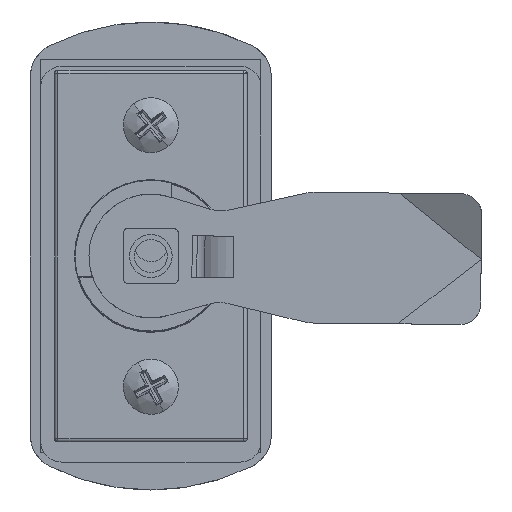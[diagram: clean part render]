
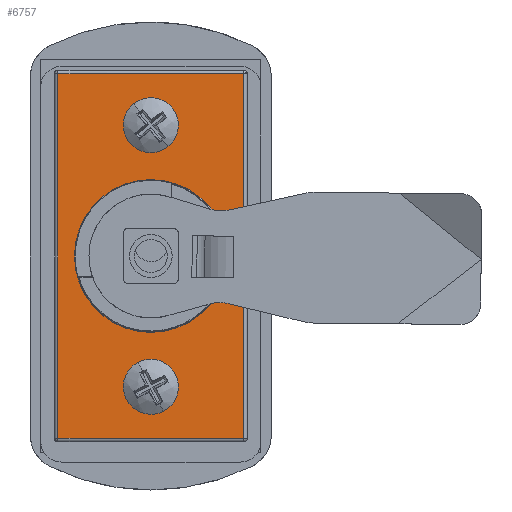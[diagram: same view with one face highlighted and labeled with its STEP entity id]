
A CAD part, front view. The second image highlights one B-rep face of the part: STEP entity #6757.
In plain terms, the highlighted planar face has unit normal (0, -1, 0) as drawn and (1, 0, 0) by its records, which use the part's own axes.
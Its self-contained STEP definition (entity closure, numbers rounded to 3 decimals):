
#6753 = EDGE_CURVE ( 'NONE', #9751, #9755, #15724, .T. ) ;
#6755 = ORIENTED_EDGE ( 'NONE', *, *, #43760, .T. ) ;
#6756 = ORIENTED_EDGE ( 'NONE', *, *, #6753, .T. ) ;
#6757 = ADVANCED_FACE ( 'NONE', ( #15731, #15710, #15732, #15713 ), #15715, .T. ) ;
#6758 = ORIENTED_EDGE ( 'NONE', *, *, #9822, .T. ) ;
#6759 = EDGE_LOOP ( 'NONE', ( #7066, #6756 ) ) ;
#6763 = EDGE_LOOP ( 'NONE', ( #6767, #6766 ) ) ;
#6764 = ORIENTED_EDGE ( 'NONE', *, *, #43747, .T. ) ;
#6765 = ORIENTED_EDGE ( 'NONE', *, *, #7074, .T. ) ;
#6766 = ORIENTED_EDGE ( 'NONE', *, *, #43740, .T. ) ;
#6767 = ORIENTED_EDGE ( 'NONE', *, *, #9798, .T. ) ;
#6768 = ORIENTED_EDGE ( 'NONE', *, *, #43741, .T. ) ;
#6771 = EDGE_LOOP ( 'NONE', ( #6774, #6758 ) ) ;
#6774 = ORIENTED_EDGE ( 'NONE', *, *, #43717, .T. ) ;
#7065 = EDGE_LOOP ( 'NONE', ( #6755, #6765, #6764, #6768 ) ) ;
#7066 = ORIENTED_EDGE ( 'NONE', *, *, #9767, .T. ) ;
#7074 = EDGE_CURVE ( 'NONE', #10212, #43681, #11065, .T. ) ;
#9751 = VERTEX_POINT ( 'NONE', #15473 ) ;
#9755 = VERTEX_POINT ( 'NONE', #15392 ) ;
#9767 = EDGE_CURVE ( 'NONE', #9755, #9751, #15579, .T. ) ;
#9787 = VERTEX_POINT ( 'NONE', #15508 ) ;
#9798 = EDGE_CURVE ( 'NONE', #9800, #9787, #15926, .T. ) ;
#9800 = VERTEX_POINT ( 'NONE', #15871 ) ;
#9801 = VERTEX_POINT ( 'NONE', #16013 ) ;
#9822 = EDGE_CURVE ( 'NONE', #9801, #9826, #15969, .T. ) ;
#9826 = VERTEX_POINT ( 'NONE', #15843 ) ;
#10212 = VERTEX_POINT ( 'NONE', #34865 ) ;
#10225 = VERTEX_POINT ( 'NONE', #34921 ) ;
#11057 = DIRECTION ( 'NONE',  ( 0., -1., 0. ) ) ;
#11058 = VECTOR ( 'NONE', #11057, 1000. ) ;
#11064 = CARTESIAN_POINT ( 'NONE',  ( 381.275, 201.907, 374. ) ) ;
#11065 = LINE ( 'NONE', #11064, #11058 ) ;
#15392 = CARTESIAN_POINT ( 'NONE',  ( 381.275, 215.907, 368.85 ) ) ;
#15452 = DIRECTION ( 'NONE',  ( 0., 0., 1. ) ) ;
#15453 = DIRECTION ( 'NONE',  ( -1., 0., 0. ) ) ;
#15454 = CARTESIAN_POINT ( 'NONE',  ( 381.275, 215.907, 366.5 ) ) ;
#15473 = CARTESIAN_POINT ( 'NONE',  ( 381.275, 215.907, 364.15 ) ) ;
#15508 = CARTESIAN_POINT ( 'NONE',  ( 381.275, 215.907, 326.15 ) ) ;
#15574 = AXIS2_PLACEMENT_3D ( 'NONE', #15454, #15453, #15452 ) ;
#15579 = CIRCLE ( 'NONE', #15574, 2.35 ) ;
#15653 = DIRECTION ( 'NONE',  ( 0., 1., 0. ) ) ;
#15654 = DIRECTION ( 'NONE',  ( 1., 0., 0. ) ) ;
#15655 = CARTESIAN_POINT ( 'NONE',  ( 381.275, 201.907, 374.5 ) ) ;
#15709 = AXIS2_PLACEMENT_3D ( 'NONE', #15655, #15654, #15653 ) ;
#15710 = FACE_OUTER_BOUND ( 'NONE', #7065, .T. ) ;
#15711 = DIRECTION ( 'NONE',  ( 0., 0., 1. ) ) ;
#15712 = DIRECTION ( 'NONE',  ( -1., 0., 0. ) ) ;
#15713 = FACE_BOUND ( 'NONE', #6771, .T. ) ;
#15715 = PLANE ( 'NONE',  #15709 ) ;
#15724 = CIRCLE ( 'NONE', #15779, 2.35 ) ;
#15727 = CARTESIAN_POINT ( 'NONE',  ( 381.275, 215.907, 366.5 ) ) ;
#15731 = FACE_BOUND ( 'NONE', #6759, .T. ) ;
#15732 = FACE_BOUND ( 'NONE', #6763, .T. ) ;
#15779 = AXIS2_PLACEMENT_3D ( 'NONE', #15727, #15712, #15711 ) ;
#15839 = DIRECTION ( 'NONE',  ( 0., 0., 1. ) ) ;
#15840 = DIRECTION ( 'NONE',  ( -1., 0., 0. ) ) ;
#15841 = AXIS2_PLACEMENT_3D ( 'NONE', #15851, #15840, #15839 ) ;
#15843 = CARTESIAN_POINT ( 'NONE',  ( 381.275, 204.807, 347.5 ) ) ;
#15851 = CARTESIAN_POINT ( 'NONE',  ( 381.275, 215.907, 347.5 ) ) ;
#15871 = CARTESIAN_POINT ( 'NONE',  ( 381.275, 215.907, 330.85 ) ) ;
#15880 = CARTESIAN_POINT ( 'NONE',  ( 381.275, 215.907, 328.5 ) ) ;
#15926 = CIRCLE ( 'NONE', #16018, 2.35 ) ;
#15969 = CIRCLE ( 'NONE', #15841, 11.1 ) ;
#16013 = CARTESIAN_POINT ( 'NONE',  ( 381.275, 227.007, 347.5 ) ) ;
#16014 = DIRECTION ( 'NONE',  ( 0., 0., 1. ) ) ;
#16015 = DIRECTION ( 'NONE',  ( -1., 0., 0. ) ) ;
#16018 = AXIS2_PLACEMENT_3D ( 'NONE', #15880, #16015, #16014 ) ;
#23175 = CARTESIAN_POINT ( 'NONE',  ( 381.275, 202.407, 374. ) ) ;
#23228 = CIRCLE ( 'NONE', #23264, 11.1 ) ;
#23252 = DIRECTION ( 'NONE',  ( 0., 0., 1. ) ) ;
#23253 = DIRECTION ( 'NONE',  ( -1., 0., 0. ) ) ;
#23254 = CARTESIAN_POINT ( 'NONE',  ( 381.275, 215.907, 347.5 ) ) ;
#23264 = AXIS2_PLACEMENT_3D ( 'NONE', #23254, #23253, #23252 ) ;
#23800 = DIRECTION ( 'NONE',  ( 0., 1., 0. ) ) ;
#23801 = VECTOR ( 'NONE', #23800, 1000. ) ;
#23802 = CARTESIAN_POINT ( 'NONE',  ( 381.275, 201.907, 321. ) ) ;
#23803 = LINE ( 'NONE', #23802, #23801 ) ;
#23808 = DIRECTION ( 'NONE',  ( 0., 0., 1. ) ) ;
#23809 = DIRECTION ( 'NONE',  ( -1., 0., 0. ) ) ;
#23810 = CARTESIAN_POINT ( 'NONE',  ( 381.275, 215.907, 328.5 ) ) ;
#23811 = AXIS2_PLACEMENT_3D ( 'NONE', #23810, #23809, #23808 ) ;
#23816 = CIRCLE ( 'NONE', #23811, 2.35 ) ;
#23818 = LINE ( 'NONE', #23838, #23837 ) ;
#23836 = DIRECTION ( 'NONE',  ( 0., 0., -1. ) ) ;
#23837 = VECTOR ( 'NONE', #23836, 1000. ) ;
#23838 = CARTESIAN_POINT ( 'NONE',  ( 381.275, 202.407, 374.5 ) ) ;
#23855 = LINE ( 'NONE', #23907, #23906 ) ;
#23905 = DIRECTION ( 'NONE',  ( 0., 0., 1. ) ) ;
#23906 = VECTOR ( 'NONE', #23905, 1000. ) ;
#23907 = CARTESIAN_POINT ( 'NONE',  ( 381.275, 229.407, 374.5 ) ) ;
#26550 = CARTESIAN_POINT ( 'NONE',  ( 381.275, 229.407, 321. ) ) ;
#34865 = CARTESIAN_POINT ( 'NONE',  ( 381.275, 229.407, 374. ) ) ;
#34921 = CARTESIAN_POINT ( 'NONE',  ( 381.275, 202.407, 321. ) ) ;
#43681 = VERTEX_POINT ( 'NONE', #23175 ) ;
#43717 = EDGE_CURVE ( 'NONE', #9826, #9801, #23228, .T. ) ;
#43740 = EDGE_CURVE ( 'NONE', #9787, #9800, #23816, .T. ) ;
#43741 = EDGE_CURVE ( 'NONE', #10225, #43852, #23803, .T. ) ;
#43747 = EDGE_CURVE ( 'NONE', #43681, #10225, #23818, .T. ) ;
#43760 = EDGE_CURVE ( 'NONE', #43852, #10212, #23855, .T. ) ;
#43852 = VERTEX_POINT ( 'NONE', #26550 ) ;
